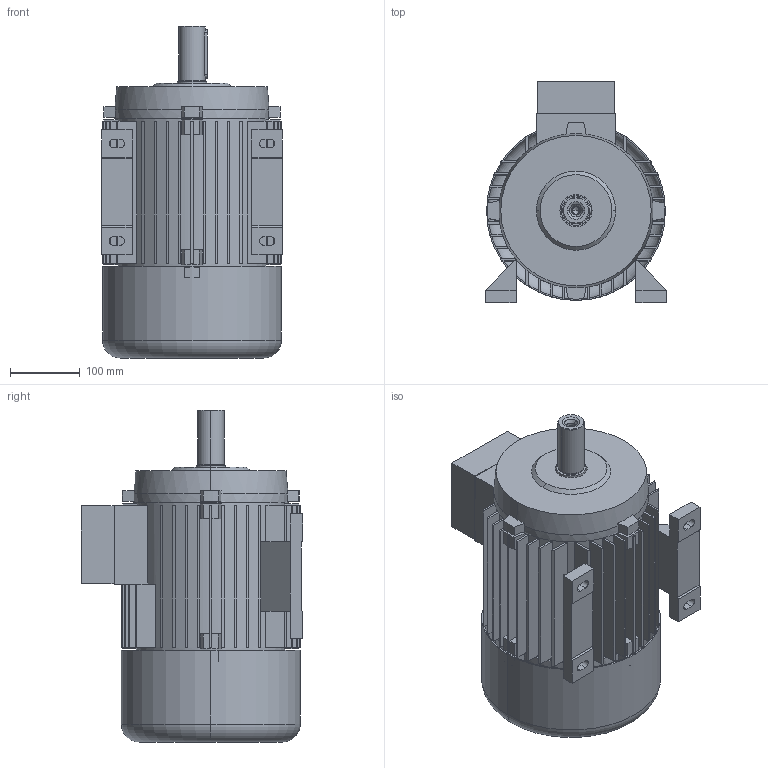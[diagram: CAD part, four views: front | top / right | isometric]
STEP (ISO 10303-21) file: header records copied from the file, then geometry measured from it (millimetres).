
FILE_DESCRIPTION (( 'STEP AP203' ), '1' );
FILE_NAME ('5AZ 132S config.STEP', '2017-10-30T13:16:21', ( '' ), ( '' ), 'SwSTEP 2.0', 'SolidWorks 2017', '' );
FILE_SCHEMA (( 'CONFIG_CONTROL_DESIGN' ));
Length unit declared in the file: millimetre
Products named in the file (1): 5AZ 132S config
Bounding box: 260 x 318 x 477 mm (x, y, z)
Volume: 5450828.2 mm3; surface area: 1382505.7 mm2
Topology: 7 solids, 7 shells, 415 faces, 1056 edges, 695 vertices
Faces by surface type: plane 278, cylinder 111, cone 22, torus 4
Entity records: 12763 total; most frequent: CARTESIAN_POINT 2285, DIRECTION 2252, ORIENTED_EDGE 2108, EDGE_CURVE 1054, AXIS2_PLACEMENT_3D 802, VERTEX_POINT 695, VECTOR 648, LINE 648
